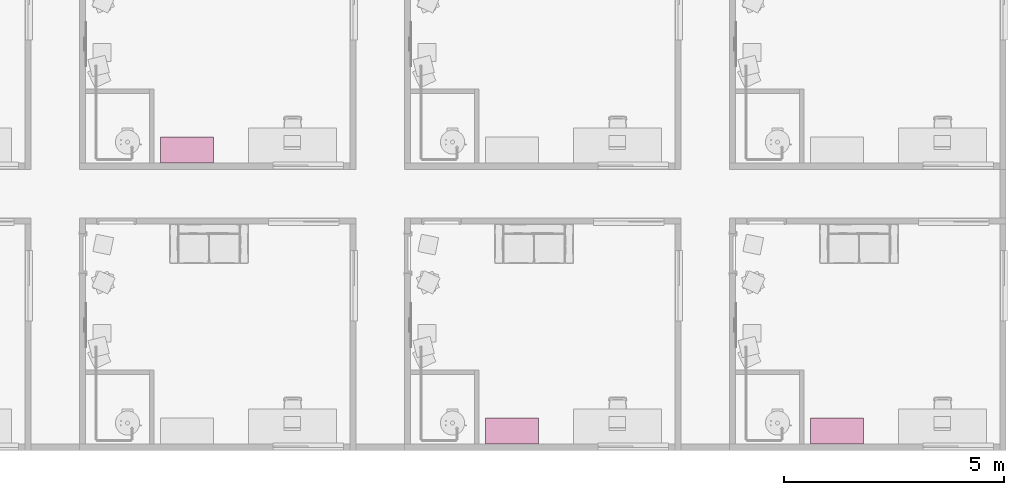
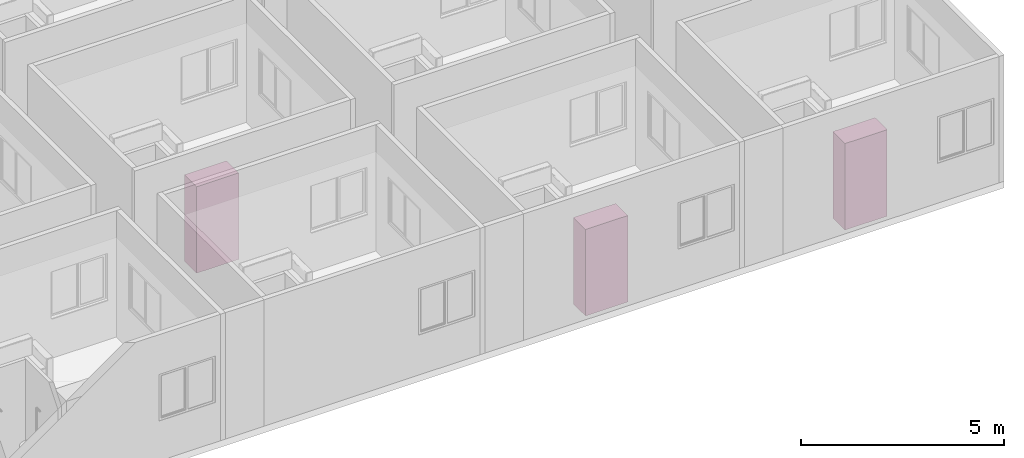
# One storey, part 65 of 72: 3 furniture elements.
"""IFC4 building model written with IfcOpenShell, lengths in centimetres."""

from ifc_helpers import new_model, entity, si_unit, converted_unit, derived_unit, direction, frame, origin, place, context, subcontext, project, spatial, indexed_curve, outline, extrude, source, transform, mapped, material, type_object, type_shapes, element, save


model = new_model("IFC4")

# Units and contexts
model_context = context("Model", 3, precision=0.001, world=origin(), true_north=direction((6.123233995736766e-17, 1.0)))
body_context = subcontext(model_context, "Body", "Model", "MODEL_VIEW")
ifc_project = project(units=[si_unit("LENGTHUNIT", "METRE", prefix="CENTI"), si_unit("AREAUNIT", "SQUARE_METRE"), si_unit("VOLUMEUNIT", "CUBIC_METRE"), derived_unit("THERMALTRANSMITTANCEUNIT", [(si_unit("MASSUNIT", "GRAM", prefix="KILO"), 1), (si_unit("THERMODYNAMICTEMPERATUREUNIT", "KELVIN"), -1), (si_unit("TIMEUNIT", "SECOND"), -3)]), converted_unit("PLANEANGLEUNIT", "DEGREE", entity("IfcPlaneAngleMeasure", 0.017453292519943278), si_unit("PLANEANGLEUNIT", "RADIAN"), dimensions=[0, 0, 0, 0, 0, 0, 0]), derived_unit("MASSDENSITYUNIT", [(si_unit("MASSUNIT", "GRAM", prefix="KILO"), 1), (si_unit("LENGTHUNIT", "METRE"), -3)]), derived_unit("VAPORPERMEABILITYUNIT", [(si_unit("LENGTHUNIT", "METRE"), -1), (si_unit("TIMEUNIT", "SECOND"), 1)]), derived_unit("USERDEFINED", [(si_unit("MASSUNIT", "GRAM", prefix="KILO"), 1), (si_unit("TIMEUNIT", "SECOND"), -3), (si_unit("LENGTHUNIT", "METRE"), 3), (si_unit("ELECTRICCURRENTUNIT", "AMPERE"), -2)]), derived_unit("SPECIFICHEATCAPACITYUNIT", [(si_unit("THERMODYNAMICTEMPERATUREUNIT", "KELVIN"), -1), (si_unit("LENGTHUNIT", "METRE"), 2), (si_unit("TIMEUNIT", "SECOND"), -2)]), derived_unit("THERMALCONDUCTANCEUNIT", [(si_unit("MASSUNIT", "GRAM", prefix="KILO"), 1), (si_unit("THERMODYNAMICTEMPERATUREUNIT", "KELVIN"), -1), (si_unit("TIMEUNIT", "SECOND"), -3), (si_unit("LENGTHUNIT", "METRE"), 1)]), si_unit("PRESSUREUNIT", "PASCAL"), derived_unit("MODULUSOFELASTICITYUNIT", [(si_unit("MASSUNIT", "GRAM", prefix="KILO"), 1), (si_unit("LENGTHUNIT", "METRE"), -1), (si_unit("TIMEUNIT", "SECOND"), -2)]), derived_unit("THERMALEXPANSIONCOEFFICIENTUNIT", [(si_unit("THERMODYNAMICTEMPERATUREUNIT", "KELVIN"), -1)])], contexts=[model_context])

# Site, building, storey, space
site_placement = place(None, origin())
site = spatial("IfcSite", under=ifc_project, at=site_placement, Name="Default", CompositionType="ELEMENT")
building_placement = place(site_placement, origin())
building = spatial("IfcBuilding", under=site, at=building_placement, Name="IDS Escape Game Building", CompositionType="ELEMENT")
storey_placement = place(building_placement, frame((0.0, 0.0, 800.0)))
storey = spatial("IfcBuildingStorey", under=building, at=storey_placement, Name="02_Second Floor", CompositionType="ELEMENT", Elevation=800.0)
space_1_placement = place(storey_placement, origin())
space_1 = spatial("IfcSpace", under=storey, at=space_1_placement, Name="76", CompositionType="ELEMENT", PredefinedType="NOTDEFINED")

# Furniture
ifc_material = material(Name="<Unnamed>")
furniture_type = type_object("IfcFurnitureType", Name="BPL_82.11_CA_UN_kast_gen_BERSnl:type 1", AssemblyPlace="NOTDEFINED", PredefinedType="NOTDEFINED", material=ifc_material)
shared_shape = source(origin(), body_context, "Body", "SweptSolid", [
    extrude(outline(indexed_curve([(-59.99999999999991, -29.999999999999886), (59.99999999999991, -29.999999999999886), (59.99999999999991, 29.999999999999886), (-59.99999999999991, 29.999999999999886), (-59.99999999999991, -29.999999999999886)], self_intersect=False)), frame((-60.0, -30.0, 0.0), z_axis=(0.0, 0.0, 1.0), x_axis=(-1.0, 0.0, 0.0)), (0.0, 0.0, 1.0), 260.0),
])
type_shapes(furniture_type, [shared_shape])
furniture_1_placement = place(space_1_placement, frame((3987.0, 73.0, 0.0)))
element("IfcFurniture", 1, at=furniture_1_placement, inside=space_1, type_object=furniture_type, material=ifc_material, Name="BPL_82.11_CA_UN_kast_gen_BERSnl:type 1", ObjectType="BPL_82.11_CA_UN_kast_gen_BERSnl:type 1", PredefinedType="NOTDEFINED", context=body_context, shape_type="MappedRepresentation", body=[
    mapped(shared_shape, transform((0.0, 0.0, 0.0), scale=1.0)),
])

# Space
space_2_placement = place(storey_placement, origin())
space_2 = spatial("IfcSpace", under=storey, at=space_2_placement, Name="77", CompositionType="ELEMENT", PredefinedType="NOTDEFINED")

# Furniture
furniture_2_placement = place(space_2_placement, frame((4725.0, 73.0, 0.0)))
element("IfcFurniture", 2, at=furniture_2_placement, inside=space_2, type_object=furniture_type, material=ifc_material, Name="BPL_82.11_CA_UN_kast_gen_BERSnl:type 1", ObjectType="BPL_82.11_CA_UN_kast_gen_BERSnl:type 1", PredefinedType="NOTDEFINED", context=body_context, shape_type="MappedRepresentation", body=[
    mapped(shared_shape, transform((0.0, 0.0, 0.0), scale=1.0)),
])

# Space
space_3_placement = place(storey_placement, origin())
space_3 = spatial("IfcSpace", under=storey, at=space_3_placement, Name="82", CompositionType="ELEMENT", PredefinedType="NOTDEFINED")

# Furniture
furniture_3_placement = place(space_3_placement, frame((3249.0, 711.0, 0.0)))
element("IfcFurniture", 3, at=furniture_3_placement, inside=space_3, type_object=furniture_type, material=ifc_material, Name="BPL_82.11_CA_UN_kast_gen_BERSnl:type 1", ObjectType="BPL_82.11_CA_UN_kast_gen_BERSnl:type 1", PredefinedType="NOTDEFINED", context=body_context, shape_type="MappedRepresentation", body=[
    mapped(shared_shape, transform((0.0, 0.0, 0.0), scale=1.0)),
])

save(model, "model.ifc")
